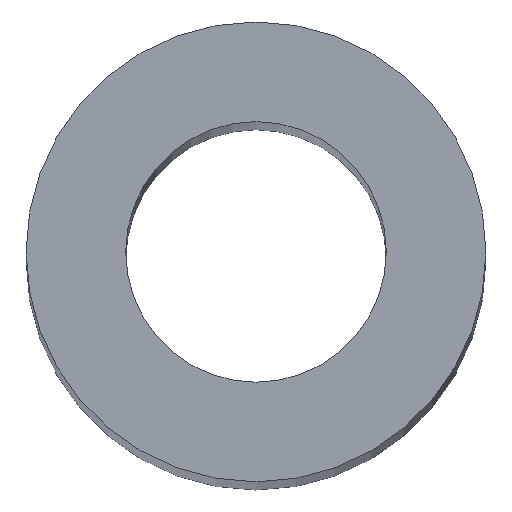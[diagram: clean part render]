
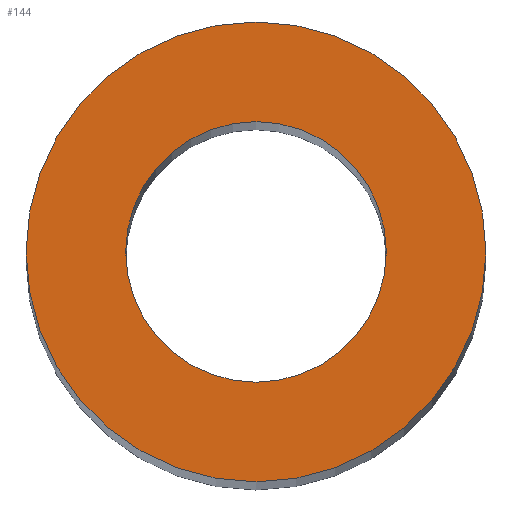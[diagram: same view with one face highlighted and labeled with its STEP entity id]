
A CAD part, top view. The second image highlights one B-rep face of the part: STEP entity #144.
In plain terms, the highlighted planar face has unit normal (0, 0, 1).
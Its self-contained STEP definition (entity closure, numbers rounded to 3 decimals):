
#24 = VERTEX_POINT('',#25);
#25 = CARTESIAN_POINT('',(35.909,19.,61.004));
#32 = CYLINDRICAL_SURFACE('',#33,3.);
#33 = AXIS2_PLACEMENT_3D('',#34,#35,#36);
#34 = CARTESIAN_POINT('',(32.909,19.,0.004));
#35 = DIRECTION('',(-0.,-0.,-1.));
#36 = DIRECTION('',(1.,0.,0.));
#51 = EDGE_CURVE('',#24,#24,#52,.T.);
#52 = SURFACE_CURVE('',#53,(#58,#65),.PCURVE_S1.);
#53 = CIRCLE('',#54,3.);
#54 = AXIS2_PLACEMENT_3D('',#55,#56,#57);
#55 = CARTESIAN_POINT('',(32.909,19.,61.004));
#56 = DIRECTION('',(0.,0.,1.));
#57 = DIRECTION('',(1.,0.,0.));
#58 = PCURVE('',#32,#59);
#59 = DEFINITIONAL_REPRESENTATION('',(#60),#64);
#60 = LINE('',#61,#62);
#61 = CARTESIAN_POINT('',(-0.,-61.));
#62 = VECTOR('',#63,1.);
#63 = DIRECTION('',(-1.,0.));
#64 = ( GEOMETRIC_REPRESENTATION_CONTEXT(2) 
PARAMETRIC_REPRESENTATION_CONTEXT() REPRESENTATION_CONTEXT('2D SPACE',''
  ) );
#65 = PCURVE('',#66,#71);
#66 = PLANE('',#67);
#67 = AXIS2_PLACEMENT_3D('',#68,#69,#70);
#68 = CARTESIAN_POINT('',(32.909,19.,61.004));
#69 = DIRECTION('',(0.,0.,1.));
#70 = DIRECTION('',(1.,0.,-0.));
#71 = DEFINITIONAL_REPRESENTATION('',(#72),#76);
#72 = CIRCLE('',#73,3.);
#73 = AXIS2_PLACEMENT_2D('',#74,#75);
#74 = CARTESIAN_POINT('',(0.,0.));
#75 = DIRECTION('',(1.,0.));
#76 = ( GEOMETRIC_REPRESENTATION_CONTEXT(2) 
PARAMETRIC_REPRESENTATION_CONTEXT() REPRESENTATION_CONTEXT('2D SPACE',''
  ) );
#133 = CYLINDRICAL_SURFACE('',#134,1.7);
#134 = AXIS2_PLACEMENT_3D('',#135,#136,#137);
#135 = CARTESIAN_POINT('',(32.909,19.,-0.996));
#136 = DIRECTION('',(-0.,-0.,-1.));
#137 = DIRECTION('',(1.,0.,0.));
#144 = ADVANCED_FACE('',(#145,#148),#66,.T.);
#145 = FACE_BOUND('',#146,.T.);
#146 = EDGE_LOOP('',(#147));
#147 = ORIENTED_EDGE('',*,*,#51,.T.);
#148 = FACE_BOUND('',#149,.T.);
#149 = EDGE_LOOP('',(#150));
#150 = ORIENTED_EDGE('',*,*,#151,.T.);
#151 = EDGE_CURVE('',#152,#152,#154,.T.);
#152 = VERTEX_POINT('',#153);
#153 = CARTESIAN_POINT('',(34.609,19.,61.004));
#154 = SURFACE_CURVE('',#155,(#160,#171),.PCURVE_S1.);
#155 = CIRCLE('',#156,1.7);
#156 = AXIS2_PLACEMENT_3D('',#157,#158,#159);
#157 = CARTESIAN_POINT('',(32.909,19.,61.004));
#158 = DIRECTION('',(0.,0.,-1.));
#159 = DIRECTION('',(1.,0.,0.));
#160 = PCURVE('',#66,#161);
#161 = DEFINITIONAL_REPRESENTATION('',(#162),#170);
#162 = ( BOUNDED_CURVE() B_SPLINE_CURVE(2,(#163,#164,#165,#166,#167,#168
,#169),.UNSPECIFIED.,.T.,.F.) B_SPLINE_CURVE_WITH_KNOTS((1,2,2,2,2,1),(
    -2.094,0.,2.094,4.189,6.283,
8.378),.UNSPECIFIED.) CURVE() GEOMETRIC_REPRESENTATION_ITEM() 
RATIONAL_B_SPLINE_CURVE((1.,0.5,1.,0.5,1.,0.5,1.)) REPRESENTATION_ITEM(
  '') );
#163 = CARTESIAN_POINT('',(1.7,0.));
#164 = CARTESIAN_POINT('',(1.7,-2.944));
#165 = CARTESIAN_POINT('',(-0.85,-1.472));
#166 = CARTESIAN_POINT('',(-3.4,0.));
#167 = CARTESIAN_POINT('',(-0.85,1.472));
#168 = CARTESIAN_POINT('',(1.7,2.944));
#169 = CARTESIAN_POINT('',(1.7,0.));
#170 = ( GEOMETRIC_REPRESENTATION_CONTEXT(2) 
PARAMETRIC_REPRESENTATION_CONTEXT() REPRESENTATION_CONTEXT('2D SPACE',''
  ) );
#171 = PCURVE('',#133,#172);
#172 = DEFINITIONAL_REPRESENTATION('',(#173),#177);
#173 = LINE('',#174,#175);
#174 = CARTESIAN_POINT('',(-6.283,-62.));
#175 = VECTOR('',#176,1.);
#176 = DIRECTION('',(1.,-0.));
#177 = ( GEOMETRIC_REPRESENTATION_CONTEXT(2) 
PARAMETRIC_REPRESENTATION_CONTEXT() REPRESENTATION_CONTEXT('2D SPACE',''
  ) );
